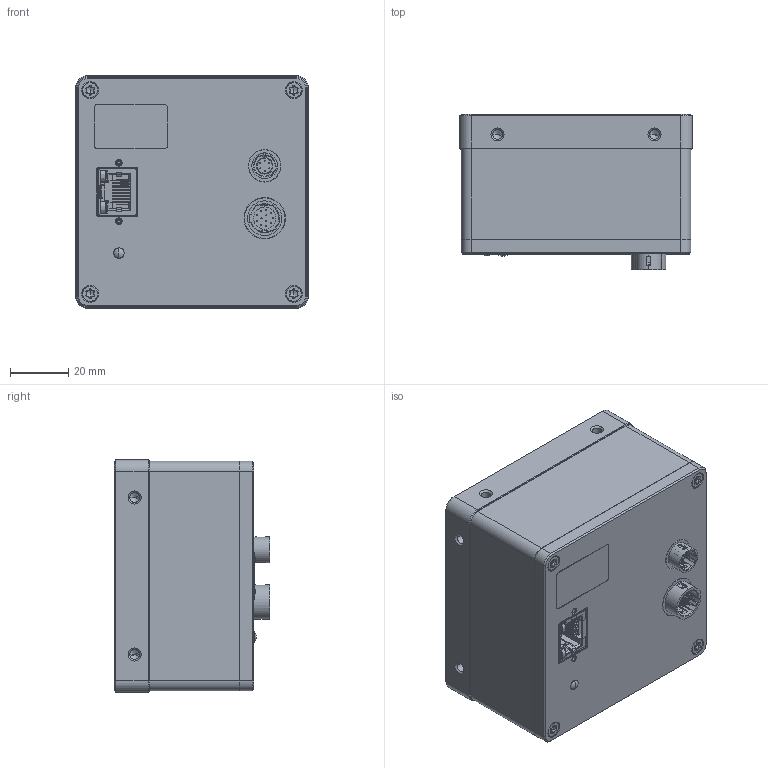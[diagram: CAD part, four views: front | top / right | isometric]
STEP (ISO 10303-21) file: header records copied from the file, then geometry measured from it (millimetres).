
FILE_DESCRIPTION((''),'2;1');
FILE_NAME('0-DH3-2198-0005_SW0002','2023-12-19T20:23:27',('303992'),(''),'CREO PARAMETRIC BY PTC INC, 2020184','CREO PARAMETRIC BY PTC INC, 2020184','');
FILE_SCHEMA(('CONFIG_CONTROL_DESIGN','SHAPE_APPEARANCE_LAYERS_GROUPS'));
Products named in the file (1): 0-DH3-2198-0005_SW0002
Bounding box: 80 x 53.5 x 80 mm (x, y, z)
Volume: 270878.2 mm3; surface area: 37253.6 mm2
Topology: 1 solids, 1 shells, 1858 faces, 5279 edges, 3358 vertices
Faces by surface type: plane 1089, cylinder 538, cone 147, bspline 35, sphere 25, torus 24
Entity records: 94847 total; most frequent: CARTESIAN_POINT 16955, ORIENTED_EDGE 10466, DIRECTION 9913, PRESENTATION_STYLE_ASSIGNMENT 7069, STYLED_ITEM 5246, CURVE_STYLE 5233, EDGE_CURVE 5233, VECTOR 3673
